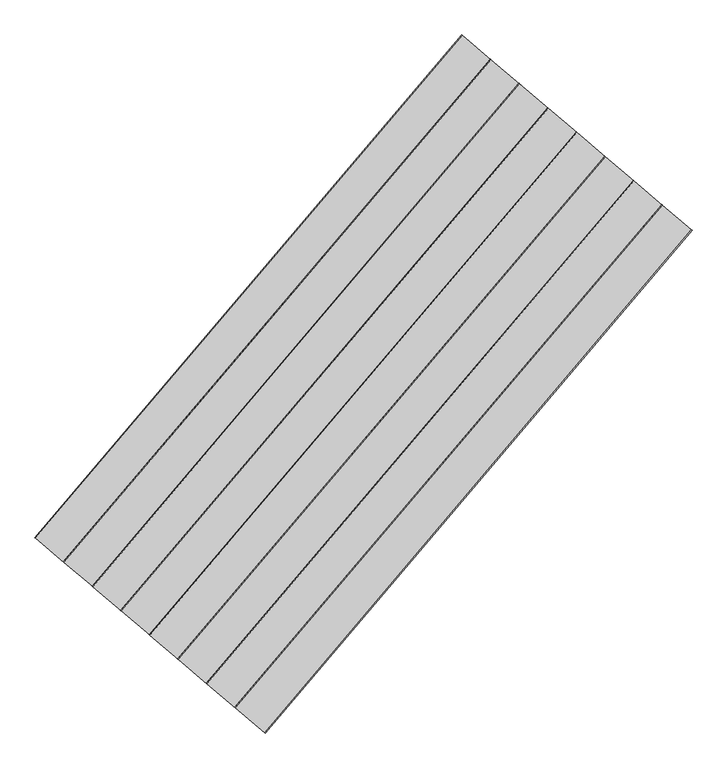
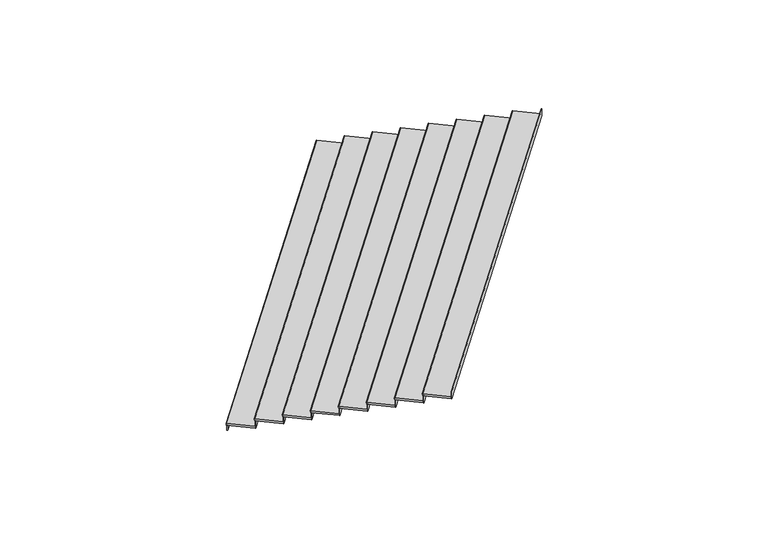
"""IFC4 building model written with IfcOpenShell, lengths in millimetres: stair flight geometry, Wood Steps with 50 mm Tread 20 mm Nosing 13 mm Riser."""

from ifc_helpers import new_model, si_unit, point, frame, frame_2d, origin, place, context, project, spatial, polyline, circle_curve, trimmed, segment, composite_curve, outline, extrude, source, transform, mapped, element, save


def stair_flight_beaa3ae0(model_context):
    return source(origin(), model_context, "Body", "SweptSolid", [
        extrude(outline(composite_curve([segment(polyline([(0.0, -598.410772), (0.0, 0.0)]), True, "CONTINUOUS"), segment(trimmed(circle_curve(frame_2d((10.0, 0.0)), 10.0), [point((0.0, 0.0))], [point((20.0, 0.0))], False, "CARTESIAN"), True, "CONTINUOUS"), segment(polyline([(20.0, 0.0), (50.0, 0.0), (50.0, -598.410772), (0.0, -598.410772)]), True, "CONTINUOUS")], self_intersect=False)), frame((849595.1435867, 50585.9685313, 1179.2941176), z_axis=(0.6473560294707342, 0.762187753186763, 0.0), x_axis=(0.0, 0.0, -1.0)), (0.0, 0.0, 1.0), 10348.9095119),
        extrude(outline(polyline([(849612.2928112, 50571.4030206), (849602.7654643, 50579.494971), (856302.1944353, 58467.3070598), (856311.7217822, 58459.2151094), (849612.2928112, 50571.4030206)])), frame((0.0, 0.0, 1000.0), z_axis=(0.0, 0.0, 1.0), x_axis=(1.0, 0.0, 0.0)), (0.0, 0.0, 1.0), 129.2941176),
        extrude(outline(polyline([(850060.7722954, 50190.4917596), (850051.2449485, 50198.5837099), (856750.6739195, 58086.3957988), (856760.2012664, 58078.3038484), (850060.7722954, 50190.4917596)])), frame((0.0, 0.0, 1129.2941176), z_axis=(0.0, 0.0, 1.0), x_axis=(1.0, 0.0, 0.0)), (0.0, 0.0, 1.0), 179.2941176),
        extrude(outline(composite_curve([segment(polyline([(0.0, -598.410772), (0.0, 0.0)]), True, "CONTINUOUS"), segment(trimmed(circle_curve(frame_2d((10.0, 0.0)), 10.0), [point((0.0, 0.0))], [point((20.0, 0.0))], False, "CARTESIAN"), True, "CONTINUOUS"), segment(polyline([(20.0, 0.0), (50.0, 0.0), (50.0, -598.410772), (0.0, -598.410772)]), True, "CONTINUOUS")], self_intersect=False)), frame((850043.623071, 50205.0572702, 1358.5882353), z_axis=(0.6473560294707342, 0.762187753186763, 0.0), x_axis=(0.0, 0.0, -1.0)), (0.0, 0.0, 1.0), 10348.9095119),
        extrude(outline(polyline([(850509.2517797, 49809.5804985), (850499.7244328, 49817.6724489), (857199.1534037, 57705.4845377), (857208.6807507, 57697.3925873), (850509.2517797, 49809.5804985)])), frame((0.0, 0.0, 1308.5882353), z_axis=(0.0, 0.0, 1.0), x_axis=(1.0, 0.0, 0.0)), (0.0, 0.0, 1.0), 179.2941176),
        extrude(outline(composite_curve([segment(polyline([(0.0, -598.410772), (0.0, 0.0)]), True, "CONTINUOUS"), segment(trimmed(circle_curve(frame_2d((10.0, 0.0)), 10.0), [point((0.0, 0.0))], [point((20.0, 0.0))], False, "CARTESIAN"), True, "CONTINUOUS"), segment(polyline([(20.0, 0.0), (50.0, 0.0), (50.0, -598.410772), (0.0, -598.410772)]), True, "CONTINUOUS")], self_intersect=False)), frame((850492.1025552, 49824.1460092, 1537.8823529), z_axis=(0.6473560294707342, 0.762187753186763, 0.0), x_axis=(0.0, 0.0, -1.0)), (0.0, 0.0, 1.0), 10348.9095119),
        extrude(outline(polyline([(850957.7312639, 49428.6692375), (850948.203917, 49436.7611878), (857647.632888, 57324.5732767), (857657.1602349, 57316.4813263), (850957.7312639, 49428.6692375)])), frame((0.0, 0.0, 1487.8823529), z_axis=(0.0, 0.0, 1.0), x_axis=(1.0, 0.0, 0.0)), (0.0, 0.0, 1.0), 179.2941176),
        extrude(outline(composite_curve([segment(polyline([(0.0, -598.410772), (0.0, 0.0)]), True, "CONTINUOUS"), segment(trimmed(circle_curve(frame_2d((10.0, 0.0)), 10.0), [point((0.0, 0.0))], [point((20.0, 0.0))], False, "CARTESIAN"), True, "CONTINUOUS"), segment(polyline([(20.0, 0.0), (50.0, 0.0), (50.0, -598.410772), (0.0, -598.410772)]), True, "CONTINUOUS")], self_intersect=False)), frame((850940.5820395, 49443.2347481, 1717.1764706), z_axis=(0.6473560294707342, 0.762187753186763, 0.0), x_axis=(0.0, 0.0, -1.0)), (0.0, 0.0, 1.0), 10348.9095119),
        extrude(outline(polyline([(851406.2107482, 49047.7579764), (851396.6834013, 49055.8499268), (858096.1123723, 56943.6620156), (858105.6397192, 56935.5700652), (851406.2107482, 49047.7579764)])), frame((0.0, 0.0, 1667.1764706), z_axis=(0.0, 0.0, 1.0), x_axis=(1.0, 0.0, 0.0)), (0.0, 0.0, 1.0), 179.2941176),
        extrude(outline(composite_curve([segment(polyline([(0.0, -598.410772), (0.0, 0.0)]), True, "CONTINUOUS"), segment(trimmed(circle_curve(frame_2d((10.0, 0.0)), 10.0), [point((0.0, 0.0))], [point((20.0, 0.0))], False, "CARTESIAN"), True, "CONTINUOUS"), segment(polyline([(20.0, 0.0), (50.0, 0.0), (50.0, -598.410772), (0.0, -598.410772)]), True, "CONTINUOUS")], self_intersect=False)), frame((851389.0615238, 49062.3234871, 1896.4705882), z_axis=(0.6473560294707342, 0.762187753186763, 0.0), x_axis=(0.0, 0.0, -1.0)), (0.0, 0.0, 1.0), 10348.9095119),
        extrude(outline(polyline([(851854.6902325, 48666.8467154), (851845.1628855, 48674.9386657), (858544.5918565, 56562.7507546), (858554.1192034, 56554.6588042), (851854.6902325, 48666.8467154)])), frame((0.0, 0.0, 1846.4705882), z_axis=(0.0, 0.0, 1.0), x_axis=(1.0, 0.0, 0.0)), (0.0, 0.0, 1.0), 179.2941176),
        extrude(outline(composite_curve([segment(polyline([(0.0, -598.410772), (0.0, 0.0)]), True, "CONTINUOUS"), segment(trimmed(circle_curve(frame_2d((10.0, 0.0)), 10.0), [point((0.0, 0.0))], [point((20.0, 0.0))], False, "CARTESIAN"), True, "CONTINUOUS"), segment(polyline([(20.0, 0.0), (50.0, 0.0), (50.0, -598.410772), (0.0, -598.410772)]), True, "CONTINUOUS")], self_intersect=False)), frame((851837.541008, 48681.412226, 2075.7647059), z_axis=(0.6473560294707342, 0.762187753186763, 0.0), x_axis=(0.0, 0.0, -1.0)), (0.0, 0.0, 1.0), 10348.9095119),
        extrude(outline(polyline([(852303.1697167, 48285.9354543), (852293.6423698, 48294.0274047), (858993.0713408, 56181.8394935), (859002.5986877, 56173.7475431), (852303.1697167, 48285.9354543)])), frame((0.0, 0.0, 2025.7647059), z_axis=(0.0, 0.0, 1.0), x_axis=(1.0, 0.0, 0.0)), (0.0, 0.0, 1.0), 179.2941176),
        extrude(outline(composite_curve([segment(polyline([(0.0, -598.410772), (0.0, 0.0)]), True, "CONTINUOUS"), segment(trimmed(circle_curve(frame_2d((10.0, 0.0)), 10.0), [point((0.0, 0.0))], [point((20.0, 0.0))], False, "CARTESIAN"), True, "CONTINUOUS"), segment(polyline([(20.0, 0.0), (50.0, 0.0), (50.0, -598.410772), (0.0, -598.410772)]), True, "CONTINUOUS")], self_intersect=False)), frame((852286.0204923, 48300.500965, 2255.0588235), z_axis=(0.6473560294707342, 0.762187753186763, 0.0), x_axis=(0.0, 0.0, -1.0)), (0.0, 0.0, 1.0), 10348.9095119),
        extrude(outline(polyline([(852751.649201, 47905.0241933), (852742.121854, 47913.1161436), (859441.550825, 55800.9282325), (859451.0781719, 55792.8362821), (852751.649201, 47905.0241933)])), frame((0.0, 0.0, 2205.0588235), z_axis=(0.0, 0.0, 1.0), x_axis=(1.0, 0.0, 0.0)), (0.0, 0.0, 1.0), 179.2941176),
        extrude(outline(polyline([(853200.1286852, 47524.1129322), (853190.6013383, 47532.2048826), (859890.0303093, 55420.0169714), (859899.5576562, 55411.925021), (853200.1286852, 47524.1129322)])), frame((0.0, 0.0, 2384.3529412), z_axis=(0.0, 0.0, 1.0), x_axis=(1.0, 0.0, 0.0)), (0.0, 0.0, 1.0), 179.2941176),
        extrude(outline(composite_curve([segment(polyline([(0.0, -598.410772), (0.0, 0.0)]), True, "CONTINUOUS"), segment(trimmed(circle_curve(frame_2d((10.0, 0.0)), 10.0), [point((0.0, 0.0))], [point((20.0, 0.0))], False, "CARTESIAN"), True, "CONTINUOUS"), segment(polyline([(20.0, 0.0), (50.0, 0.0), (50.0, -598.410772), (0.0, -598.410772)]), True, "CONTINUOUS")], self_intersect=False)), frame((852734.4999765, 47919.5897039, 2434.3529412), z_axis=(0.6473560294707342, 0.762187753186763, 0.0), x_axis=(0.0, 0.0, -1.0)), (0.0, 0.0, 1.0), 10348.9095119),
    ])


if __name__ == "__main__":
    model = new_model("IFC4")
    model_context = context("Model", 3, world=origin())
    ifc_project = project(units=[si_unit("LENGTHUNIT", "METRE", prefix="MILLI")], contexts=[model_context])
    site = spatial("IfcSite", under=ifc_project)
    building = spatial("IfcBuilding", under=site)
    placement = place(None, origin())
    stair_flight_shape = stair_flight_beaa3ae0(model_context)
    element("IfcStairFlight", 1, ObjectType="Wood Steps with 50 mm Tread 20 mm Nosing 13 mm Riser", at=placement, inside=building, context=model_context, shape_type="MappedRepresentation", body=[
        mapped(stair_flight_shape, transform((0.0, 0.0, 0.0), x_axis=(1.0, 0.0, 0.0), y_axis=(0.0, 1.0, 0.0), z_axis=(0.0, 0.0, 1.0))),
    ])
    save(model, "model.ifc")
